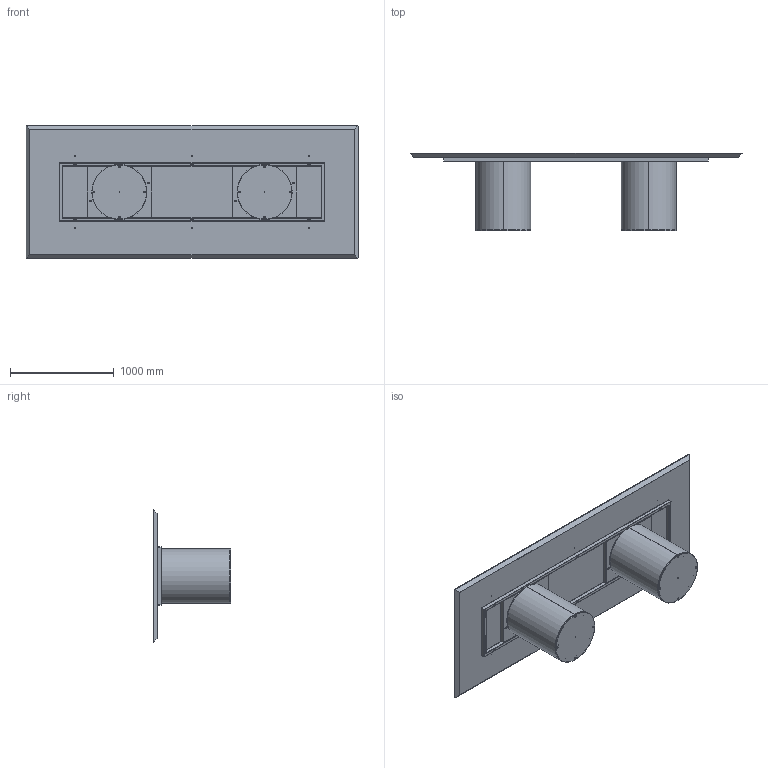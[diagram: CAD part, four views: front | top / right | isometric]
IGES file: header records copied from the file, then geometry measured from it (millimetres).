
Start section: SolidWorks IGES file using analytic representation for surfaces
Global section: file name: Y:\eforma\TECNICO\SOLIDWORKS\E-FORMA\1-TAVOLI\CILINDRO\02 parts\CI28W.IGS; native system: SolidWorks 2022; preprocessor: SolidWorks 2022; author: eforma.tech; date: 240808.091118; units: millimetre
Bounding box: 3200 x 748 x 1280 mm (x, y, z)
Volume: 164839645 mm3; surface area: 17420749.1 mm2
Topology: 34 solids, 34 shells, 1216 faces, 2796 edges, 1588 vertices
Faces by surface type: revolution 702, plane 514
